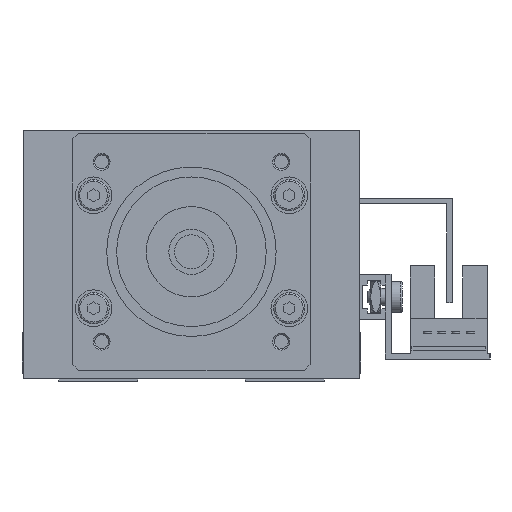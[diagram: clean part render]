
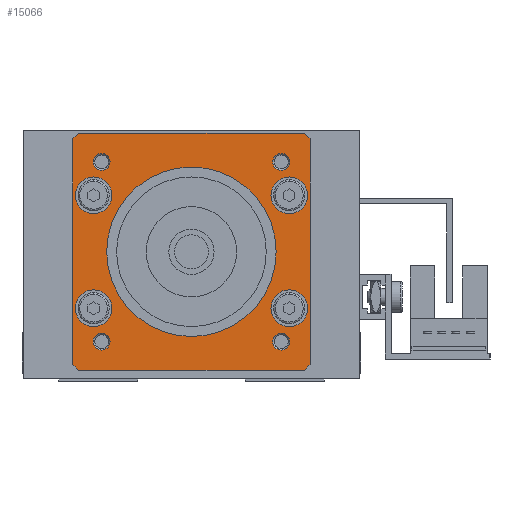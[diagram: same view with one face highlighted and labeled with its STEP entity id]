
A CAD part, left-side view. The second image highlights one B-rep face of the part: STEP entity #15066.
In plain terms, the highlighted planar face has unit normal (-1, 0, 0).
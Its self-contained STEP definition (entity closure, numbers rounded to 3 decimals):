
#10231=CARTESIAN_POINT('POINT621',(-69.,-15.,0.));
#10232=VERTEX_POINT('VERTEX621',#10231);
#10239=CARTESIAN_POINT('POINT622',(-69.,15.,
   0.));
#10240=VERTEX_POINT('VERTEX622',#10239);
#10241=CARTESIAN_POINT('POS1063',(-69.,0.,0.));
#10242=DIRECTION('DIR1564',(1.,0.,0.));
#10243=DIRECTION('DIR1565',(0.,-1.,0.));
#10244=AXIS2_PLACEMENT_3D('AXIS502',#10241,#10242,#10243);
#10245=CIRCLE('ELLIPSE201',#10244,15.);
#10246=EDGE_CURVE('EDGE954',#10240,#10232,#10245,.T.);
#10266=EDGE_CURVE('EDGE956',#10232,#10240,#10245,.T.);
#10271=CARTESIAN_POINT('POINT623',(-69.,-20.571,
   10.));
#10272=VERTEX_POINT('VERTEX623',#10271);
#10279=CARTESIAN_POINT('POINT624',(-69.,-14.071,
   10.));
#10280=VERTEX_POINT('VERTEX624',#10279);
#10281=CARTESIAN_POINT('POS1067',(-69.,-17.321,
   10.));
#10282=DIRECTION('DIR1570',(1.,0.,0.));
#10283=DIRECTION('DIR1571',(0.,-1.,0.));
#10284=AXIS2_PLACEMENT_3D('AXIS504',#10281,#10282,#10283);
#10285=CIRCLE('ELLIPSE202',#10284,3.25);
#10286=EDGE_CURVE('EDGE958',#10280,#10272,#10285,.T.);
#10306=EDGE_CURVE('EDGE960',#10272,#10280,#10285,.T.);
#10311=CARTESIAN_POINT('POINT625',(-69.,14.071,
   10.));
#10312=VERTEX_POINT('VERTEX625',#10311);
#10319=CARTESIAN_POINT('POINT626',(-69.,20.571,
   10.));
#10320=VERTEX_POINT('VERTEX626',#10319);
#10321=CARTESIAN_POINT('POS1071',(-69.,17.321,
   10.));
#10322=DIRECTION('DIR1576',(1.,0.,0.));
#10323=DIRECTION('DIR1577',(0.,-1.,0.));
#10324=AXIS2_PLACEMENT_3D('AXIS506',#10321,#10322,#10323);
#10325=CIRCLE('ELLIPSE203',#10324,3.25);
#10326=EDGE_CURVE('EDGE962',#10320,#10312,#10325,.T.);
#10346=EDGE_CURVE('EDGE964',#10312,#10320,#10325,.T.);
#10351=CARTESIAN_POINT('POINT627',(-69.,-20.571,
   -10.));
#10352=VERTEX_POINT('VERTEX627',#10351);
#10359=CARTESIAN_POINT('POINT628',(-69.,-14.071,
   -10.));
#10360=VERTEX_POINT('VERTEX628',#10359);
#10361=CARTESIAN_POINT('POS1075',(-69.,-17.321,
   -10.));
#10362=DIRECTION('DIR1582',(1.,0.,0.));
#10363=DIRECTION('DIR1583',(0.,-1.,0.));
#10364=AXIS2_PLACEMENT_3D('AXIS508',#10361,#10362,#10363);
#10365=CIRCLE('ELLIPSE204',#10364,3.25);
#10366=EDGE_CURVE('EDGE966',#10360,#10352,#10365,.T.);
#10386=EDGE_CURVE('EDGE968',#10352,#10360,#10365,.T.);
#10391=CARTESIAN_POINT('POINT629',(-69.,14.071,
   -10.));
#10392=VERTEX_POINT('VERTEX629',#10391);
#10399=CARTESIAN_POINT('POINT630',(-69.,20.571,
   -10.));
#10400=VERTEX_POINT('VERTEX630',#10399);
#10401=CARTESIAN_POINT('POS1079',(-69.,17.321,
   -10.));
#10402=DIRECTION('DIR1588',(1.,0.,0.));
#10403=DIRECTION('DIR1589',(0.,-1.,0.));
#10404=AXIS2_PLACEMENT_3D('AXIS510',#10401,#10402,#10403);
#10405=CIRCLE('ELLIPSE205',#10404,3.25);
#10406=EDGE_CURVE('EDGE970',#10400,#10392,#10405,.T.);
#10426=EDGE_CURVE('EDGE972',#10392,#10400,#10405,.T.);
#10431=CARTESIAN_POINT('POINT631',(-69.,-14.41,
   15.91));
#10432=VERTEX_POINT('VERTEX631',#10431);
#10440=CARTESIAN_POINT('POINT632',(-69.,-17.41,
   15.91));
#10441=VERTEX_POINT('VERTEX632',#10440);
#10448=CARTESIAN_POINT('POS1084',(-69.,-15.91,
   15.91));
#10449=DIRECTION('DIR1595',(1.,0.,0.));
#10450=DIRECTION('DIR1596',(0.,-1.,0.));
#10451=AXIS2_PLACEMENT_3D('AXIS512',#10448,#10449,#10450);
#10452=CIRCLE('ELLIPSE206',#10451,1.5);
#10453=EDGE_CURVE('EDGE975',#10432,#10441,#10452,.T.);
#10464=EDGE_CURVE('EDGE976',#10441,#10432,#10452,.T.);
#10471=CARTESIAN_POINT('POINT633',(-69.,17.41,
   15.91));
#10472=VERTEX_POINT('VERTEX633',#10471);
#10480=CARTESIAN_POINT('POINT634',(-69.,14.41,
   15.91));
#10481=VERTEX_POINT('VERTEX634',#10480);
#10488=CARTESIAN_POINT('POS1088',(-69.,15.91,
   15.91));
#10489=DIRECTION('DIR1601',(1.,0.,0.));
#10490=DIRECTION('DIR1602',(0.,-1.,0.));
#10491=AXIS2_PLACEMENT_3D('AXIS514',#10488,#10489,#10490);
#10492=CIRCLE('ELLIPSE207',#10491,1.5);
#10493=EDGE_CURVE('EDGE979',#10472,#10481,#10492,.T.);
#10504=EDGE_CURVE('EDGE980',#10481,#10472,#10492,.T.);
#10511=CARTESIAN_POINT('POINT635',(-69.,-14.41,
   -15.91));
#10512=VERTEX_POINT('VERTEX635',#10511);
#10520=CARTESIAN_POINT('POINT636',(-69.,-17.41,
   -15.91));
#10521=VERTEX_POINT('VERTEX636',#10520);
#10528=CARTESIAN_POINT('POS1092',(-69.,-15.91,
   -15.91));
#10529=DIRECTION('DIR1607',(1.,0.,0.));
#10530=DIRECTION('DIR1608',(0.,-1.,0.));
#10531=AXIS2_PLACEMENT_3D('AXIS516',#10528,#10529,#10530);
#10532=CIRCLE('ELLIPSE208',#10531,1.5);
#10533=EDGE_CURVE('EDGE983',#10512,#10521,#10532,.T.);
#10544=EDGE_CURVE('EDGE984',#10521,#10512,#10532,.T.);
#10551=CARTESIAN_POINT('POINT637',(-69.,17.41,
   -15.91));
#10552=VERTEX_POINT('VERTEX637',#10551);
#10560=CARTESIAN_POINT('POINT638',(-69.,14.41,
   -15.91));
#10561=VERTEX_POINT('VERTEX638',#10560);
#10568=CARTESIAN_POINT('POS1096',(-69.,15.91,
   -15.91));
#10569=DIRECTION('DIR1613',(1.,0.,0.));
#10570=DIRECTION('DIR1614',(0.,-1.,0.));
#10571=AXIS2_PLACEMENT_3D('AXIS518',#10568,#10569,#10570);
#10572=CIRCLE('ELLIPSE209',#10571,1.5);
#10573=EDGE_CURVE('EDGE987',#10552,#10561,#10572,.T.);
#10584=EDGE_CURVE('EDGE988',#10561,#10552,#10572,.T.);
#14959=ORIENTED_EDGE('COEDGE2545',*,*,#10584,.T.);
#14960=ORIENTED_EDGE('COEDGE2546',*,*,#10573,.T.);
#14961=EDGE_LOOP('NONE',(#14959,#14960));
#14962=FACE_BOUND('LOOP1',#14961,.T.);
#14963=ORIENTED_EDGE('COEDGE2547',*,*,#10544,.T.);
#14964=ORIENTED_EDGE('COEDGE2548',*,*,#10533,.T.);
#14965=EDGE_LOOP('NONE',(#14963,#14964));
#14966=FACE_BOUND('LOOP1',#14965,.T.);
#14967=ORIENTED_EDGE('COEDGE2549',*,*,#10504,.T.);
#14968=ORIENTED_EDGE('COEDGE2550',*,*,#10493,.T.);
#14969=EDGE_LOOP('NONE',(#14967,#14968));
#14970=FACE_BOUND('LOOP1',#14969,.T.);
#14971=ORIENTED_EDGE('COEDGE2551',*,*,#10464,.T.);
#14972=ORIENTED_EDGE('COEDGE2552',*,*,#10453,.T.);
#14973=EDGE_LOOP('NONE',(#14971,#14972));
#14974=FACE_BOUND('LOOP1',#14973,.T.);
#14975=ORIENTED_EDGE('COEDGE2553',*,*,#10426,.T.);
#14976=ORIENTED_EDGE('COEDGE2554',*,*,#10406,.T.);
#14977=EDGE_LOOP('NONE',(#14975,#14976));
#14978=FACE_BOUND('LOOP1',#14977,.T.);
#14979=ORIENTED_EDGE('COEDGE2555',*,*,#10386,.T.);
#14980=ORIENTED_EDGE('COEDGE2556',*,*,#10366,.T.);
#14981=EDGE_LOOP('NONE',(#14979,#14980));
#14982=FACE_BOUND('LOOP1',#14981,.T.);
#14983=ORIENTED_EDGE('COEDGE2557',*,*,#10346,.T.);
#14984=ORIENTED_EDGE('COEDGE2558',*,*,#10326,.T.);
#14985=EDGE_LOOP('NONE',(#14983,#14984));
#14986=FACE_BOUND('LOOP1',#14985,.T.);
#14987=ORIENTED_EDGE('COEDGE2559',*,*,#10306,.T.);
#14988=ORIENTED_EDGE('COEDGE2560',*,*,#10286,.T.);
#14989=EDGE_LOOP('NONE',(#14987,#14988));
#14990=FACE_BOUND('LOOP1',#14989,.T.);
#14991=ORIENTED_EDGE('COEDGE2561',*,*,#10266,.T.);
#14992=ORIENTED_EDGE('COEDGE2562',*,*,#10246,.T.);
#14993=EDGE_LOOP('NONE',(#14991,#14992));
#14994=FACE_BOUND('LOOP1',#14993,.T.);
#14995=CARTESIAN_POINT('POINT929',(-69.,19.995,20.995));
#14996=VERTEX_POINT('VERTEX929',#14995);
#14997=CARTESIAN_POINT('POINT930',(-69.,-19.995,20.995));
#14998=VERTEX_POINT('VERTEX930',#14997);
#14999=CARTESIAN_POINT('POS1532',(-69.,0.,20.995));
#15000=DIRECTION('DIR2266',(0.,-1.,0.));
#15001=VECTOR('VEC798',#15000,1.);
#15002=LINE('STRAIGHT798',#14999,#15001);
#15003=EDGE_CURVE('EDGE1417',#14996,#14998,#15002,.T.);
#15004=ORIENTED_EDGE('COEDGE2563',*,*,#15003,.F.);
#15005=CARTESIAN_POINT('POINT931',(-69.,20.995,19.995));
#15006=VERTEX_POINT('VERTEX931',#15005);
#15007=CARTESIAN_POINT('POS1533',(-69.,20.995,19.995));
#15008=DIRECTION('DIR2267',(0.,-0.707,
   0.707));
#15009=VECTOR('VEC799',#15008,1.);
#15010=LINE('STRAIGHT799',#15007,#15009);
#15011=EDGE_CURVE('EDGE1418',#15006,#14996,#15010,.T.);
#15012=ORIENTED_EDGE('COEDGE2564',*,*,#15011,.F.);
#15013=CARTESIAN_POINT('POINT932',(-69.,20.995,-19.995));
#15014=VERTEX_POINT('VERTEX932',#15013);
#15015=CARTESIAN_POINT('POS1534',(-69.,20.995,-19.995));
#15016=DIRECTION('DIR2268',(0.,0.,1.));
#15017=VECTOR('VEC800',#15016,1.);
#15018=LINE('STRAIGHT800',#15015,#15017);
#15019=EDGE_CURVE('EDGE1419',#15014,#15006,#15018,.T.);
#15020=ORIENTED_EDGE('COEDGE2565',*,*,#15019,.F.);
#15021=CARTESIAN_POINT('POINT933',(-69.,19.995,-20.995));
#15022=VERTEX_POINT('VERTEX933',#15021);
#15023=CARTESIAN_POINT('POS1535',(-69.,19.995,-20.995));
#15024=DIRECTION('DIR2269',(0.,0.707,
   0.707));
#15025=VECTOR('VEC801',#15024,1.);
#15026=LINE('STRAIGHT801',#15023,#15025);
#15027=EDGE_CURVE('EDGE1420',#15022,#15014,#15026,.T.);
#15028=ORIENTED_EDGE('COEDGE2566',*,*,#15027,.F.);
#15029=CARTESIAN_POINT('POINT934',(-69.,-19.995,-20.995))
   ;
#15030=VERTEX_POINT('VERTEX934',#15029);
#15031=CARTESIAN_POINT('POS1536',(-69.,-19.995,-20.995));
#15032=DIRECTION('DIR2270',(0.,1.,0.));
#15033=VECTOR('VEC802',#15032,1.);
#15034=LINE('STRAIGHT802',#15031,#15033);
#15035=EDGE_CURVE('EDGE1421',#15030,#15022,#15034,.T.);
#15036=ORIENTED_EDGE('COEDGE2567',*,*,#15035,.F.);
#15037=CARTESIAN_POINT('POINT935',(-69.,-20.995,-19.995))
   ;
#15038=VERTEX_POINT('VERTEX935',#15037);
#15039=CARTESIAN_POINT('POS1537',(-69.,-20.995,-19.995));
#15040=DIRECTION('DIR2271',(0.,0.707,
   -0.707));
#15041=VECTOR('VEC803',#15040,1.);
#15042=LINE('STRAIGHT803',#15039,#15041);
#15043=EDGE_CURVE('EDGE1422',#15038,#15030,#15042,.T.);
#15044=ORIENTED_EDGE('COEDGE2568',*,*,#15043,.F.);
#15045=CARTESIAN_POINT('POINT936',(-69.,-20.995,19.995));
#15046=VERTEX_POINT('VERTEX936',#15045);
#15047=CARTESIAN_POINT('POS1538',(-69.,-20.995,19.995));
#15048=DIRECTION('DIR2272',(0.,0.,-1.));
#15049=VECTOR('VEC804',#15048,1.);
#15050=LINE('STRAIGHT804',#15047,#15049);
#15051=EDGE_CURVE('EDGE1423',#15046,#15038,#15050,.T.);
#15052=ORIENTED_EDGE('COEDGE2569',*,*,#15051,.F.);
#15053=CARTESIAN_POINT('POS1539',(-69.,-19.995,20.995));
#15054=DIRECTION('DIR2273',(0.,-0.707,
   -0.707));
#15055=VECTOR('VEC805',#15054,1.);
#15056=LINE('STRAIGHT805',#15053,#15055);
#15057=EDGE_CURVE('EDGE1424',#14998,#15046,#15056,.T.);
#15058=ORIENTED_EDGE('COEDGE2570',*,*,#15057,.F.);
#15059=EDGE_LOOP('NONE',(#15004,#15012,#15020,#15028,#15036,#15044,
   #15052,#15058));
#15060=FACE_BOUND('LOOP1',#15059,.T.);
#15061=CARTESIAN_POINT('POS1540',(-69.,0.,
   0.));
#15062=DIRECTION('DIR2274',(1.,0.,0.));
#15063=DIRECTION('DIR2275',(0.,1.,0.));
#15064=AXIS2_PLACEMENT_3D('AXIS735',#15061,#15062,#15063);
#15065=PLANE('PLANE270',#15064);
#15066=ADVANCED_FACE('FACE603',(#14962,#14966,#14970,#14974,#14978,
   #14982,#14986,#14990,#14994,#15060),#15065,.F.);
